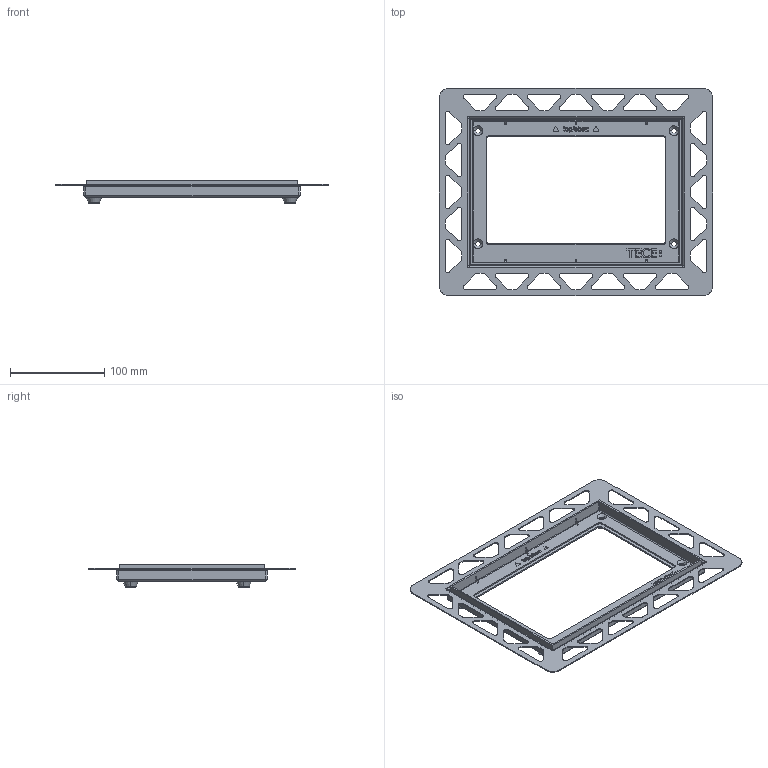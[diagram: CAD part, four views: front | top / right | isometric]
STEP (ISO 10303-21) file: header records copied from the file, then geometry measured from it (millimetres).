
FILE_DESCRIPTION((''),'2;1');
FILE_NAME('9_240_649_ASM','2010-11-15T',('mmeiser'),('NET'),'PRO/ENGINEER BY PARAMETRIC TECHNOLOGY CORPORATION, 2010230','PRO/ENGINEER BY PARAMETRIC TECHNOLOGY CORPORATION, 2010230','');
FILE_SCHEMA(('AUTOMOTIVE_DESIGN_CC2 { 1 2 10303 214 -1 1 5 2 }'));
Products named in the file (5): SP860_020_00; SP869_020_00_ASM; SP860_007_01; SP869_021_00_ASM; 9_240_649_ASM
Assembly tree (4 placements, depth 4):
  9_240_649_ASM
    SP869_021_00_ASM
      SP869_020_00_ASM
        SP860_020_00
      SP860_007_01
Bounding box: 290 x 220 x 23.75 mm (x, y, z)
Volume: 88271.8 mm3; surface area: 128733.3 mm2
Topology: 2 solids, 2 shells, 1899 faces, 5231 edges, 3416 vertices
Faces by surface type: plane 1412, cylinder 148, cone 136, extrusion 103, bspline 48, torus 32, sphere 20
Entity records: 78241 total; most frequent: CARTESIAN_POINT 14329, ORIENTED_EDGE 10454, DIRECTION 9020, PRESENTATION_STYLE_ASSIGNMENT 5229, STYLED_ITEM 5229, CURVE_STYLE 5227, EDGE_CURVE 5227, VECTOR 4452
